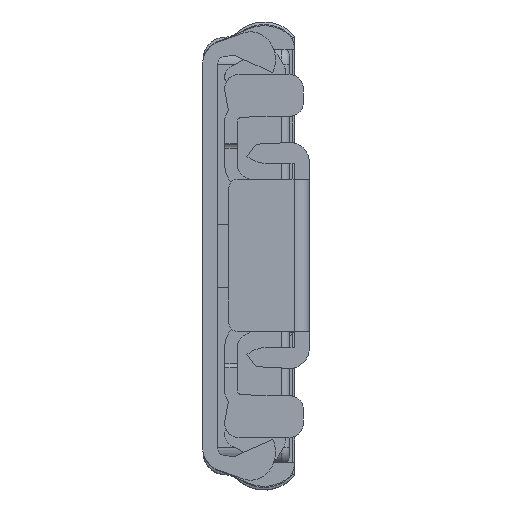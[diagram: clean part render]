
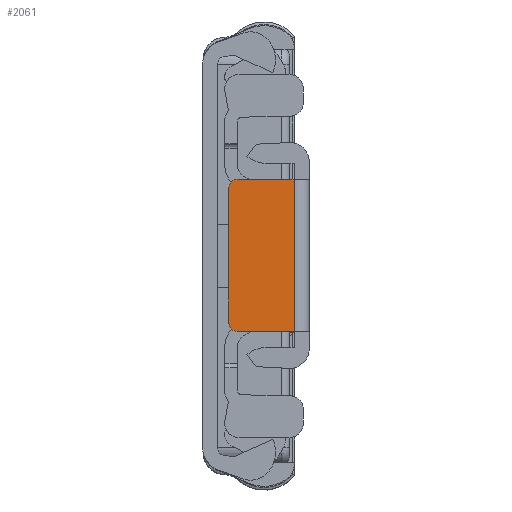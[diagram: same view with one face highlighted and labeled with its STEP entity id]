
A CAD part, front view. The second image highlights one B-rep face of the part: STEP entity #2061.
In plain terms, the highlighted planar face has unit normal (0, -1, 0).
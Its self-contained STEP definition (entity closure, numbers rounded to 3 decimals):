
#2061 = ADVANCED_FACE( '', ( #4185 ), #4186, .T. );
#4185 = FACE_OUTER_BOUND( '', #6505, .T. );
#4186 = PLANE( '', #6506 );
#6505 = EDGE_LOOP( '', ( #12238, #12239, #12240, #12241, #12242, #12243 ) );
#6506 = AXIS2_PLACEMENT_3D( '', #12244, #12245, #12246 );
#12238 = ORIENTED_EDGE( '', *, *, #15226, .T. );
#12239 = ORIENTED_EDGE( '', *, *, #15871, .T. );
#12240 = ORIENTED_EDGE( '', *, *, #15170, .T. );
#12241 = ORIENTED_EDGE( '', *, *, #14623, .T. );
#12242 = ORIENTED_EDGE( '', *, *, #14770, .T. );
#12243 = ORIENTED_EDGE( '', *, *, #15613, .T. );
#12244 = CARTESIAN_POINT( '', ( -9., -475.302, -2.366 ) );
#12245 = DIRECTION( '', ( 0., -1., 0. ) );
#12246 = DIRECTION( '', ( 0., 0., -1. ) );
#14623 = EDGE_CURVE( '', #18083, #18081, #18084, .T. );
#14770 = EDGE_CURVE( '', #18081, #18293, #18295, .T. );
#15170 = EDGE_CURVE( '', #18858, #18083, #18859, .T. );
#15226 = EDGE_CURVE( '', #18939, #18937, #18940, .T. );
#15613 = EDGE_CURVE( '', #18293, #18939, #19433, .T. );
#15871 = EDGE_CURVE( '', #18937, #18858, #19743, .T. );
#18081 = VERTEX_POINT( '', #22698 );
#18083 = VERTEX_POINT( '', #22700 );
#18084 = LINE( '', #22701, #22702 );
#18293 = VERTEX_POINT( '', #23028 );
#18295 = LINE( '', #23031, #23032 );
#18858 = VERTEX_POINT( '', #23873 );
#18859 = LINE( '', #23874, #23875 );
#18937 = VERTEX_POINT( '', #23987 );
#18939 = VERTEX_POINT( '', #23990 );
#18940 = LINE( '', #23991, #23992 );
#19433 = CIRCLE( '', #24705, 1. );
#19743 = CIRCLE( '', #25118, 1. );
#22698 = CARTESIAN_POINT( '', ( 9., -475.302, -1.898 ) );
#22700 = CARTESIAN_POINT( '', ( -9., -475.302, -1.898 ) );
#22701 = CARTESIAN_POINT( '', ( -9., -475.302, -1.898 ) );
#22702 = VECTOR( '', #27069, 1000. );
#23028 = CARTESIAN_POINT( '', ( 9., -475.302, 4.8 ) );
#23031 = CARTESIAN_POINT( '', ( 9., -475.302, -2.366 ) );
#23032 = VECTOR( '', #27238, 1000. );
#23873 = CARTESIAN_POINT( '', ( -9., -475.302, 4.8 ) );
#23874 = CARTESIAN_POINT( '', ( -9., -475.302, -2.366 ) );
#23875 = VECTOR( '', #27681, 1000. );
#23987 = CARTESIAN_POINT( '', ( -8., -475.302, 5.8 ) );
#23990 = CARTESIAN_POINT( '', ( 8., -475.302, 5.8 ) );
#23991 = CARTESIAN_POINT( '', ( 9., -475.302, 5.8 ) );
#23992 = VECTOR( '', #27735, 1000. );
#24705 = AXIS2_PLACEMENT_3D( '', #28117, #28118, #28119 );
#25118 = AXIS2_PLACEMENT_3D( '', #28379, #28380, #28381 );
#27069 = DIRECTION( '', ( 1., 0., 0. ) );
#27238 = DIRECTION( '', ( 0., 0., 1. ) );
#27681 = DIRECTION( '', ( 0., 0., -1. ) );
#27735 = DIRECTION( '', ( -1., 0., 0. ) );
#28117 = CARTESIAN_POINT( '', ( 8., -475.302, 4.8 ) );
#28118 = DIRECTION( '', ( 0., -1., 0. ) );
#28119 = DIRECTION( '', ( 0., 0., -1. ) );
#28379 = CARTESIAN_POINT( '', ( -8., -475.302, 4.8 ) );
#28380 = DIRECTION( '', ( 0., -1., 0. ) );
#28381 = DIRECTION( '', ( 0., 0., -1. ) );
